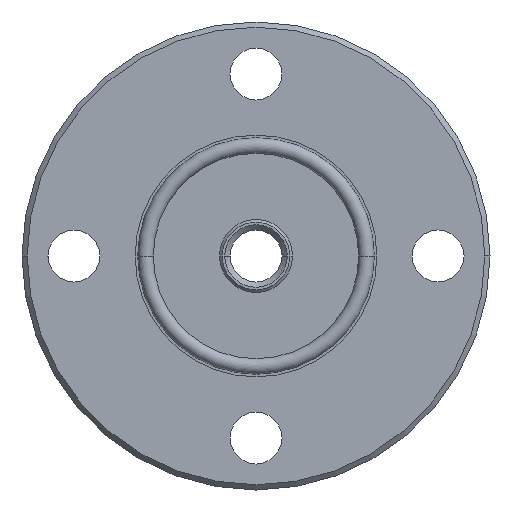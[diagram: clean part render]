
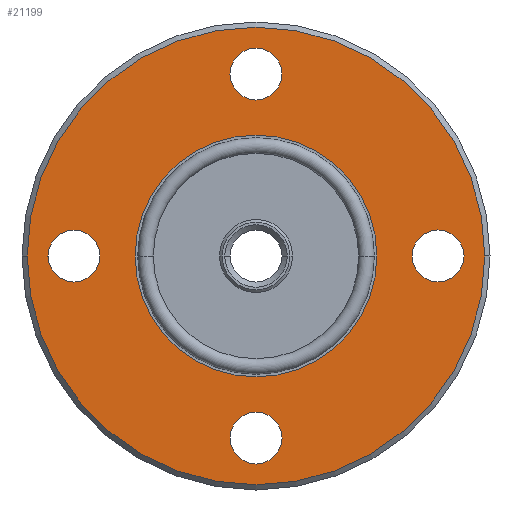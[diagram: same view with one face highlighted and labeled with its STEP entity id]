
A CAD part, left-side view. The second image highlights one B-rep face of the part: STEP entity #21199.
In plain terms, the highlighted planar face has unit normal (-1, 0, 0).
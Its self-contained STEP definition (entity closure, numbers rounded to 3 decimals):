
#8 = VERTEX_POINT ( 'NONE', #13653 ) ;
#10790 = VERTEX_POINT ( 'NONE', #24768 ) ;
#10792 = EDGE_CURVE ( 'NONE', #10790, #10793, #24767, .T. ) ;
#10793 = VERTEX_POINT ( 'NONE', #24762 ) ;
#10806 = VERTEX_POINT ( 'NONE', #24796 ) ;
#10808 = EDGE_CURVE ( 'NONE', #10806, #8, #24795, .T. ) ;
#13653 = CARTESIAN_POINT ( 'NONE',  ( 0., -5., -35. ) ) ;
#20374 = VERTEX_POINT ( 'NONE', #45017 ) ;
#20376 = EDGE_CURVE ( 'NONE', #20374, #20377, #45016, .T. ) ;
#20377 = VERTEX_POINT ( 'NONE', #45011 ) ;
#20420 = VERTEX_POINT ( 'NONE', #45495 ) ;
#20422 = EDGE_CURVE ( 'NONE', #20420, #20423, #45494, .T. ) ;
#20423 = VERTEX_POINT ( 'NONE', #45489 ) ;
#20438 = VERTEX_POINT ( 'NONE', #45523 ) ;
#20440 = EDGE_CURVE ( 'NONE', #20438, #20441, #45522, .T. ) ;
#20441 = VERTEX_POINT ( 'NONE', #45517 ) ;
#21137 = ORIENTED_EDGE ( 'NONE', *, *, #21138, .F. ) ;
#21138 = EDGE_CURVE ( 'NONE', #10793, #10790, #28031, .T. ) ;
#21141 = ORIENTED_EDGE ( 'NONE', *, *, #10792, .F. ) ;
#21157 = ORIENTED_EDGE ( 'NONE', *, *, #21159, .F. ) ;
#21159 = EDGE_CURVE ( 'NONE', #20377, #20374, #28010, .T. ) ;
#21161 = ORIENTED_EDGE ( 'NONE', *, *, #20376, .F. ) ;
#21164 = EDGE_LOOP ( 'NONE', ( #21166, #21170 ) ) ;
#21166 = ORIENTED_EDGE ( 'NONE', *, *, #21168, .F. ) ;
#21168 = EDGE_CURVE ( 'NONE', #20441, #20438, #28133, .T. ) ;
#21170 = ORIENTED_EDGE ( 'NONE', *, *, #20440, .F. ) ;
#21173 = EDGE_LOOP ( 'NONE', ( #21175, #21178 ) ) ;
#21175 = ORIENTED_EDGE ( 'NONE', *, *, #21177, .F. ) ;
#21177 = EDGE_CURVE ( 'NONE', #20423, #20420, #28119, .T. ) ;
#21178 = ORIENTED_EDGE ( 'NONE', *, *, #20422, .F. ) ;
#21180 = EDGE_LOOP ( 'NONE', ( #21181, #21291 ) ) ;
#21181 = ORIENTED_EDGE ( 'NONE', *, *, #21182, .F. ) ;
#21182 = EDGE_CURVE ( 'NONE', #8, #10806, #28105, .T. ) ;
#21199 = ADVANCED_FACE ( 'NONE', ( #26380, #26387, #26385, #26376, #26375, #26373 ), #26371, .T. ) ;
#21204 = EDGE_LOOP ( 'NONE', ( #21205, #21207 ) ) ;
#21205 = ORIENTED_EDGE ( 'NONE', *, *, #21206, .T. ) ;
#21206 = EDGE_CURVE ( 'NONE', #21814, #21812, #26950, .T. ) ;
#21207 = ORIENTED_EDGE ( 'NONE', *, *, #21810, .T. ) ;
#21210 = EDGE_LOOP ( 'NONE', ( #21157, #21161 ) ) ;
#21291 = ORIENTED_EDGE ( 'NONE', *, *, #10808, .F. ) ;
#21293 = EDGE_LOOP ( 'NONE', ( #21137, #21141 ) ) ;
#21810 = EDGE_CURVE ( 'NONE', #21812, #21814, #31279, .T. ) ;
#21812 = VERTEX_POINT ( 'NONE', #31275 ) ;
#21814 = VERTEX_POINT ( 'NONE', #31274 ) ;
#24762 = CARTESIAN_POINT ( 'NONE',  ( 0., 30., 0. ) ) ;
#24763 = DIRECTION ( 'NONE',  ( 0., -1., 0. ) ) ;
#24764 = DIRECTION ( 'NONE',  ( -1., 0., 0. ) ) ;
#24765 = CARTESIAN_POINT ( 'NONE',  ( 0., 35., 0. ) ) ;
#24766 = AXIS2_PLACEMENT_3D ( 'NONE', #24765, #24764, #24763 ) ;
#24767 = CIRCLE ( 'NONE', #24766, 5. ) ;
#24768 = CARTESIAN_POINT ( 'NONE',  ( 0., 40., 0. ) ) ;
#24791 = DIRECTION ( 'NONE',  ( 0., 0., 1. ) ) ;
#24792 = DIRECTION ( 'NONE',  ( -1., 0., 0. ) ) ;
#24793 = CARTESIAN_POINT ( 'NONE',  ( 0., 0., -35. ) ) ;
#24794 = AXIS2_PLACEMENT_3D ( 'NONE', #24793, #24792, #24791 ) ;
#24795 = CIRCLE ( 'NONE', #24794, 5. ) ;
#24796 = CARTESIAN_POINT ( 'NONE',  ( 0., 5., -35. ) ) ;
#26371 = PLANE ( 'NONE',  #26896 ) ;
#26373 = FACE_BOUND ( 'NONE', #21293, .T. ) ;
#26375 = FACE_BOUND ( 'NONE', #21180, .T. ) ;
#26376 = FACE_BOUND ( 'NONE', #21173, .T. ) ;
#26380 = FACE_OUTER_BOUND ( 'NONE', #21204, .T. ) ;
#26385 = FACE_BOUND ( 'NONE', #21164, .T. ) ;
#26387 = FACE_BOUND ( 'NONE', #21210, .T. ) ;
#26893 = DIRECTION ( 'NONE',  ( 0., -1., 0. ) ) ;
#26894 = DIRECTION ( 'NONE',  ( -1., 0., 0. ) ) ;
#26895 = CARTESIAN_POINT ( 'NONE',  ( 0., 0., 0. ) ) ;
#26896 = AXIS2_PLACEMENT_3D ( 'NONE', #26895, #26894, #26893 ) ;
#26945 = DIRECTION ( 'NONE',  ( 0., -1., 0. ) ) ;
#26946 = DIRECTION ( 'NONE',  ( -1., 0., 0. ) ) ;
#26947 = CARTESIAN_POINT ( 'NONE',  ( 0., 0., 0. ) ) ;
#26948 = AXIS2_PLACEMENT_3D ( 'NONE', #26947, #26946, #26945 ) ;
#26950 = CIRCLE ( 'NONE', #26948, 44. ) ;
#28010 = CIRCLE ( 'NONE', #28145, 23.25 ) ;
#28025 = DIRECTION ( 'NONE',  ( 0., -1., 0. ) ) ;
#28026 = DIRECTION ( 'NONE',  ( -1., 0., 0. ) ) ;
#28027 = CARTESIAN_POINT ( 'NONE',  ( 0., 35., 0. ) ) ;
#28029 = AXIS2_PLACEMENT_3D ( 'NONE', #28027, #28026, #28025 ) ;
#28031 = CIRCLE ( 'NONE', #28029, 5. ) ;
#28098 = DIRECTION ( 'NONE',  ( 0., 0., 1. ) ) ;
#28100 = DIRECTION ( 'NONE',  ( -1., 0., 0. ) ) ;
#28102 = CARTESIAN_POINT ( 'NONE',  ( 0., 0., -35. ) ) ;
#28103 = AXIS2_PLACEMENT_3D ( 'NONE', #28102, #28100, #28098 ) ;
#28105 = CIRCLE ( 'NONE', #28103, 5. ) ;
#28112 = DIRECTION ( 'NONE',  ( 0., 1., 0. ) ) ;
#28114 = DIRECTION ( 'NONE',  ( -1., 0., 0. ) ) ;
#28116 = CARTESIAN_POINT ( 'NONE',  ( 0., -35., 0. ) ) ;
#28118 = AXIS2_PLACEMENT_3D ( 'NONE', #28116, #28114, #28112 ) ;
#28119 = CIRCLE ( 'NONE', #28118, 5. ) ;
#28125 = DIRECTION ( 'NONE',  ( 0., 0., -1. ) ) ;
#28127 = DIRECTION ( 'NONE',  ( -1., 0., 0. ) ) ;
#28129 = CARTESIAN_POINT ( 'NONE',  ( 0., 0., 35. ) ) ;
#28131 = AXIS2_PLACEMENT_3D ( 'NONE', #28129, #28127, #28125 ) ;
#28133 = CIRCLE ( 'NONE', #28131, 5. ) ;
#28140 = DIRECTION ( 'NONE',  ( 0., -1., 0. ) ) ;
#28142 = DIRECTION ( 'NONE',  ( -1., 0., 0. ) ) ;
#28144 = CARTESIAN_POINT ( 'NONE',  ( 0., 0., 0. ) ) ;
#28145 = AXIS2_PLACEMENT_3D ( 'NONE', #28144, #28142, #28140 ) ;
#31274 = CARTESIAN_POINT ( 'NONE',  ( 0., 44., 0. ) ) ;
#31275 = CARTESIAN_POINT ( 'NONE',  ( 0., -44., 0. ) ) ;
#31276 = DIRECTION ( 'NONE',  ( 0., -1., 0. ) ) ;
#31277 = DIRECTION ( 'NONE',  ( -1., 0., 0. ) ) ;
#31278 = AXIS2_PLACEMENT_3D ( 'NONE', #31286, #31277, #31276 ) ;
#31279 = CIRCLE ( 'NONE', #31278, 44. ) ;
#31286 = CARTESIAN_POINT ( 'NONE',  ( 0., 0., 0. ) ) ;
#45011 = CARTESIAN_POINT ( 'NONE',  ( 0., -23.25, 0. ) ) ;
#45012 = DIRECTION ( 'NONE',  ( 0., -1., 0. ) ) ;
#45013 = DIRECTION ( 'NONE',  ( -1., 0., 0. ) ) ;
#45014 = CARTESIAN_POINT ( 'NONE',  ( 0., 0., 0. ) ) ;
#45015 = AXIS2_PLACEMENT_3D ( 'NONE', #45014, #45013, #45012 ) ;
#45016 = CIRCLE ( 'NONE', #45015, 23.25 ) ;
#45017 = CARTESIAN_POINT ( 'NONE',  ( 0., 23.25, 0. ) ) ;
#45489 = CARTESIAN_POINT ( 'NONE',  ( 0., -40., 0. ) ) ;
#45490 = DIRECTION ( 'NONE',  ( 0., 1., 0. ) ) ;
#45491 = DIRECTION ( 'NONE',  ( -1., 0., 0. ) ) ;
#45492 = CARTESIAN_POINT ( 'NONE',  ( 0., -35., 0. ) ) ;
#45493 = AXIS2_PLACEMENT_3D ( 'NONE', #45492, #45491, #45490 ) ;
#45494 = CIRCLE ( 'NONE', #45493, 5. ) ;
#45495 = CARTESIAN_POINT ( 'NONE',  ( 0., -30., 0. ) ) ;
#45517 = CARTESIAN_POINT ( 'NONE',  ( 0., -5., 35. ) ) ;
#45518 = DIRECTION ( 'NONE',  ( 0., 0., -1. ) ) ;
#45519 = DIRECTION ( 'NONE',  ( -1., 0., 0. ) ) ;
#45520 = CARTESIAN_POINT ( 'NONE',  ( 0., 0., 35. ) ) ;
#45521 = AXIS2_PLACEMENT_3D ( 'NONE', #45520, #45519, #45518 ) ;
#45522 = CIRCLE ( 'NONE', #45521, 5. ) ;
#45523 = CARTESIAN_POINT ( 'NONE',  ( 0., 5., 35. ) ) ;
